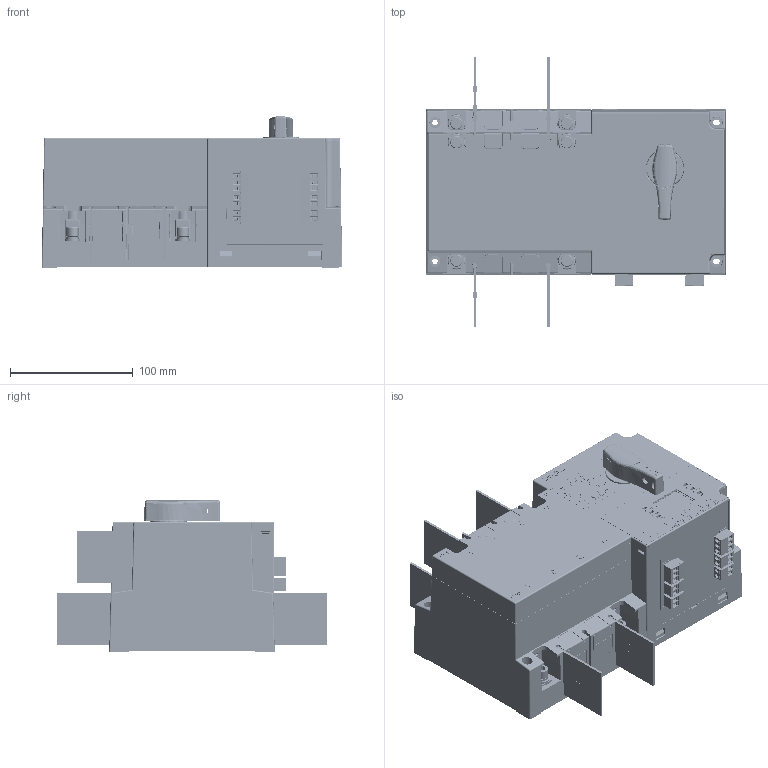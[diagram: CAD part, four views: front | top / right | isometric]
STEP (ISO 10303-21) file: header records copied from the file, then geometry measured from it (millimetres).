
FILE_DESCRIPTION (( 'STEP AP214' ), '1' );
FILE_NAME ('NDQ2A-125珘儒倰2P.STEP', '2021-08-26T06:00:09', ( 'User' ), ( 'China' ), 'SwSTEP 2.0', 'SolidWorks 2021', '' );
FILE_SCHEMA (( 'AUTOMOTIVE_DESIGN' ));
Length unit declared in the file: millimetre
Products named in the file (144): LOGO; 羲壽醱裔1; 珘儒梓齪; 粒欴諉盄傷赽; 噙揖芛; 梓齪 1; M2X8蹟隊_GB_CROSS_SCREWS_TYPE135 M2X8-N; 125雄揖芛; 2EDG-脣芛郋; 羲壽揤啣; 坶諶; 125掘蚚黑芛; 常用进线触头组件; M4X60三组和螺钉; M6x10囀鞠褒蹟佪.SLDPRT; 萇儂; 路說え; 悵玸佪縐え; M3X6蹟隊_GB_CROSS_SCREWS_TYPE135 M3X6-N; 換雄喘謫; 689Z 粣創_JIS B 1512-1 - 289 - B,14,DE,AC,14_68; 翋啣; M4X35三组和螺钉; 粟銅蛌璃; 硌尨腑; 萇儂盓殤; 傻粣; 眻褐峚雄羲壽12.8; 2EDG-3P眻褐脣釱; 掘蚚揣夔儂凳; 翋喘謫2; 諷秶菁釱3; 埴攫穩隊; 6mm平垫_GB_FASTENER_WASHER_SMWC 6; 諷秶ん珘儒; 蛌攫N; 蟀裝; 曹揤ん; M4X6蹟隊.SLDASM_GB_CROSS_SCREWS_TYPE3 M4X6-6-N; 蛹婥揖芛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
Assembly tree (327 placements, depth 6):
  NDQ2A-125珘儒倰2P
    都蚚菁釱
    常用进线触头组件  x2
      掘蚚萇埭揖芛
      鏢說掑え
      M6鞠褒楊擘醱蹟譫_GB_HEXAGON_TYPE12 M6-N
      GB6170 M3_GB_FASTENER_NUT_SNAB1 M3-N
    常用出线触头组件  x2
      蛹婥揖芛
      M6-16囀鞠褒郪磁蹟隊
        6mm粟菜_GB_FASTENER_WASHER_SW 6
        6mm平垫_GB_FASTENER_WASHER_SMWC 6
        M6鞠褒楊擘醱蹟譫_GB_HEXAGON_TYPE12 M6-N
      鏢說掑え
      M6鞠褒楊擘醱蹟譫_GB_HEXAGON_TYPE12 M6-N
      hex nuts, style 1-grades ab gb_GB_FASTENER_NUT_SNAB1 M4-N
    都蚚羲壽裔啣2
    125雄揖芛  x6
      125雄揖芛盓殤1
      125揖芛粟銅盓殤
      125蛌璃1
      125雄揖芛
      揖芛揤銅
    都蚚揣夔儂凳
      儂凳囀盓殤
      粟銅絳翐  x2
      儂凳揤坫粟銅  x2
      粟銅蛌璃
      儂凳俋盓殤
      傻粣  x2
      酗粣  x2
      都蚚儂凳褲极
      揣夔儂凳芧謫
        芧謫3
        689Z 粣創_JIS B 1512-1 - 289 - B,14,DE,AC,14_68
        芧謫芢啣
        芧謫揤銅  x2
    蛌攫N
      蛌諉埴攫_1  x2
      埴攫穩隊  x2
      埴攫酗穩隊  x2
      羞諳蛌啣
    蟀裝  x4
    常用开关压板组件
      羲壽揤啣
      峚雄羲壽6_2  x4
      M3X6蹟隊_GB_CROSS_SCREWS_TYPE135 M3X6-N  x4
      M2.5X8_GB_CROSS_SCREWS_TYPE1 M2.5X10-10  H type-N  x8
    峚雄階啣  x2
    掘蚚羲壽菁釱1
    备用出线触头组件  x2
      噙揖芛
      鏢說掑え
    备用进线触头组件  x2
      都蚚萇埭揖芛
      M6-16囀鞠褒郪磁蹟隊
        6mm粟菜_GB_FASTENER_WASHER_SW 6
        6mm平垫_GB_FASTENER_WASHER_SMWC 6
        M6鞠褒楊擘醱蹟譫_GB_HEXAGON_TYPE12 M6-N
      鏢說掑え
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Bounding box: 245.02 x 220 x 123.7 mm (x, y, z)
Volume: 1545502.3 mm3; surface area: 1197174.3 mm2
Topology: 439 solids, 445 shells, 39394 faces, 105433 edges, 67976 vertices
Faces by surface type: plane 23575, cylinder 9465, bspline 3531, cone 1717, torus 591, sphere 515
Entity records: 1087260 total; most frequent: CARTESIAN_POINT 400687, ORIENTED_EDGE 145822, DIRECTION 117892, EDGE_CURVE 72911, LINE 49734, VECTOR 49734, VERTEX_POINT 47516, AXIS2_PLACEMENT_3D 34079
